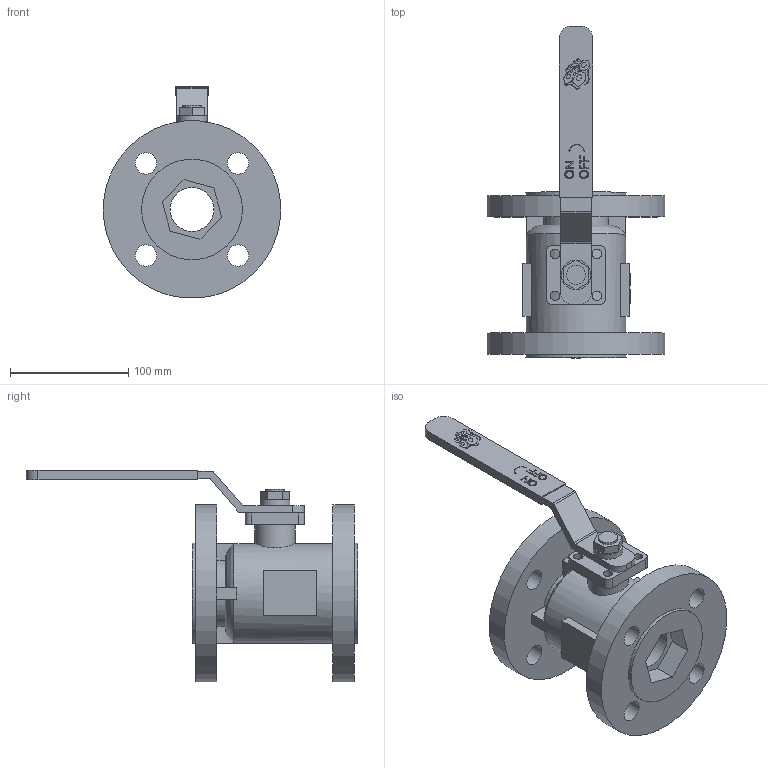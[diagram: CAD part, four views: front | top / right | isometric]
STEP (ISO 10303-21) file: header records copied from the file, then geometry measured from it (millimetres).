
FILE_DESCRIPTION(('STEP AP203'), '1');
FILE_NAME('3D_707-040-16_4', '', ('UNSPECIFIED'), ('UNSPECIFIED'), 'C3D Converter', 'C3D Toolkit', '');
FILE_SCHEMA(('CONFIG_CONTROL_DESIGN'));
Length unit declared in the file: millimetre
Bounding box: 149.43 x 280 x 178.92 mm (x, y, z)
Volume: 1097622.9 mm3; surface area: 160422.7 mm2
Topology: 20 solids, 20 shells, 2277 faces, 6647 edges, 4432 vertices
Faces by surface type: plane 2234, cylinder 39, torus 4
Full cylindrical faces by diameter (mm): 8 x4, 16 x1, 18 x8, 25 x1, 34 x1, 37 x1, 84 x1, 85 x2, 150 x2
Entity records: 92970 total; most frequent: CARTESIAN_POINT 14147, ORIENTED_EDGE 13252, DIRECTION 11270, EDGE_CURVE 6626, LINE 6518, VECTOR 6518, VERTEX_POINT 4432, AXIS2_PLACEMENT_3D 2376
